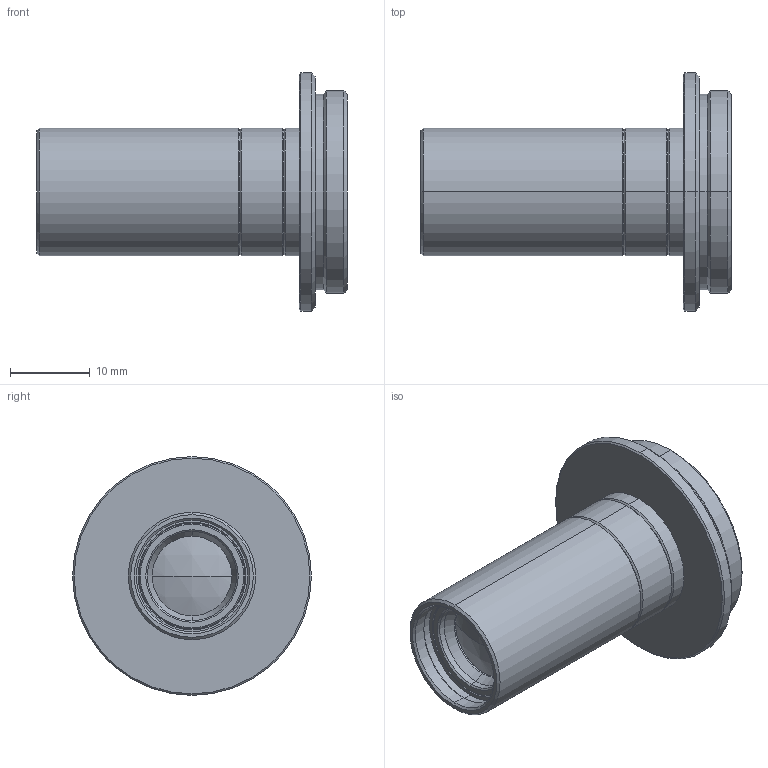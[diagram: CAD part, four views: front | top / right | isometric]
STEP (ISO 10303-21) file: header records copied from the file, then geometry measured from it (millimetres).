
FILE_DESCRIPTION (( 'STEP AP203' ), '1' );
FILE_NAME ('VS-MC05-65.STEP', '2020-03-23T01:07:36', ( '' ), ( '' ), 'SwSTEP 2.0', 'SolidWorks 2018', '' );
FILE_SCHEMA (( 'CONFIG_CONTROL_DESIGN' ));
Length unit declared in the file: millimetre
Products named in the file (1): VS-MC05-65
Bounding box: 38.97 x 30 x 30 mm (x, y, z)
Volume: 6327.1 mm3; surface area: 4639.5 mm2
Topology: 1 solids, 1 shells, 81 faces, 164 edges, 94 vertices
Faces by surface type: cone 42, cylinder 26, plane 9, sphere 4
Entity records: 2183 total; most frequent: DIRECTION 424, CARTESIAN_POINT 340, ORIENTED_EDGE 328, AXIS2_PLACEMENT_3D 178, EDGE_CURVE 164, CIRCLE 96, VERTEX_POINT 94, EDGE_LOOP 90
